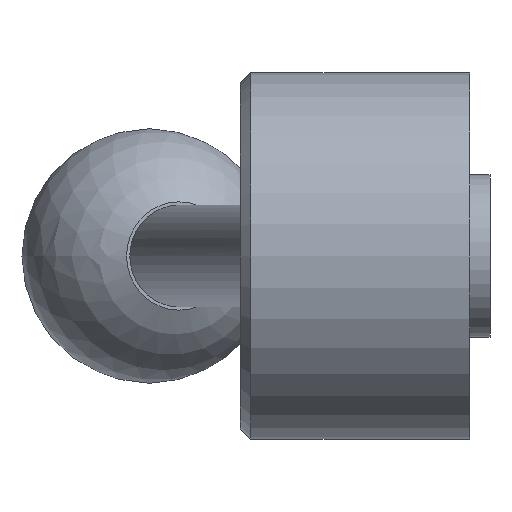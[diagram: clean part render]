
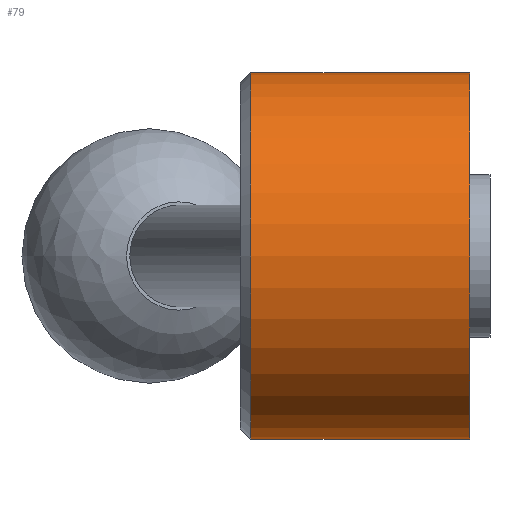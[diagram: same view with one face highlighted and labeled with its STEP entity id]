
A CAD part, left-side view. The second image highlights one B-rep face of the part: STEP entity #79.
In plain terms, the highlighted cylindrical face has radius 18 mm (diameter 36 mm), a full revolution.
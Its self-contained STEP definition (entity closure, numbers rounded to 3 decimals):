
#79 = ADVANCED_FACE( '', ( #103, #104, #105 ), #106, .T. );
#103 = FACE_OUTER_BOUND( '', #148, .T. );
#104 = FACE_BOUND( '', #149, .T. );
#105 = FACE_OUTER_BOUND( '', #150, .T. );
#106 = CYLINDRICAL_SURFACE( '', #151, 18. );
#148 = EDGE_LOOP( '', ( #201 ) );
#149 = EDGE_LOOP( '', ( #202 ) );
#150 = EDGE_LOOP( '', ( #203 ) );
#151 = AXIS2_PLACEMENT_3D( '', #204, #205, #206 );
#201 = ORIENTED_EDGE( '', *, *, #263, .F. );
#202 = ORIENTED_EDGE( '', *, *, #261, .F. );
#203 = ORIENTED_EDGE( '', *, *, #264, .T. );
#204 = CARTESIAN_POINT( '', ( 0., 0., 0. ) );
#205 = DIRECTION( '', ( 0., 1., 0. ) );
#206 = DIRECTION( '', ( 0., 0., -1. ) );
#261 = EDGE_CURVE( '', #280, #280, #281, .T. );
#263 = EDGE_CURVE( '', #284, #284, #285, .T. );
#264 = EDGE_CURVE( '', #286, #286, #287, .T. );
#280 = VERTEX_POINT( '', #308 );
#281 = B_SPLINE_CURVE_WITH_KNOTS( '', 3, ( #309, #310, #311, #312, #313, #314, #315, #316, #317, #318, #319, #320, #321, #322, #323, #324, #325, #326, #327, #328, #329, #330, #331, #332, #333, #334, #335, #336, #337, #338, #339, #340, #341, #342, #343, #344, #345, #346, #347, #348, #349, #350, #351, #352, #353, #354, #355, #356, #357, #358, #359, #360, #361, #362, #363, #364, #365, #366, #367, #368, #369, #370, #371, #372, #373, #374, #375, #376, #377, #378, #379, #380, #381, #382 ), .UNSPECIFIED., .T., .F., ( 2, 2, 2, 2, 2, 2, 2, 2, 2, 2, 2, 2, 2, 2, 2, 2, 2, 2, 2, 2, 2, 2, 2, 2, 2, 2, 2, 2, 2, 2, 2, 2, 2, 2, 2, 2, 2, 2, 2 ), ( -0.001, 0., 0.001, 0.002, 0.003, 0.004, 0.005, 0.006, 0.006, 0.007, 0.008, 0.009, 0.01, 0.011, 0.012, 0.013, 0.014, 0.015, 0.015, 0.016, 0.017, 0.018, 0.019, 0.02, 0.021, 0.022, 0.023, 0.023, 0.024, 0.025, 0.026, 0.027, 0.027, 0.028, 0.028, 0.029, 0.03, 0.031, 0.032 ), .UNSPECIFIED. );
#284 = VERTEX_POINT( '', #385 );
#285 = CIRCLE( '', #386, 18. );
#286 = VERTEX_POINT( '', #387 );
#287 = CIRCLE( '', #388, 18. );
#308 = CARTESIAN_POINT( '', ( 17.292, 15., 5. ) );
#309 = CARTESIAN_POINT( '', ( 17.292, 15.332, 5. ) );
#310 = CARTESIAN_POINT( '', ( 17.292, 14.668, 5. ) );
#311 = CARTESIAN_POINT( '', ( 17.301, 14.342, 4.967 ) );
#312 = CARTESIAN_POINT( '', ( 17.337, 13.701, 4.839 ) );
#313 = CARTESIAN_POINT( '', ( 17.365, 13.382, 4.742 ) );
#314 = CARTESIAN_POINT( '', ( 17.431, 12.778, 4.491 ) );
#315 = CARTESIAN_POINT( '', ( 17.471, 12.491, 4.337 ) );
#316 = CARTESIAN_POINT( '', ( 17.557, 11.949, 3.974 ) );
#317 = CARTESIAN_POINT( '', ( 17.603, 11.693, 3.765 ) );
#318 = CARTESIAN_POINT( '', ( 17.695, 11.235, 3.306 ) );
#319 = CARTESIAN_POINT( '', ( 17.741, 11.028, 3.055 ) );
#320 = CARTESIAN_POINT( '', ( 17.826, 10.663, 2.509 ) );
#321 = CARTESIAN_POINT( '', ( 17.865, 10.508, 2.221 ) );
#322 = CARTESIAN_POINT( '', ( 17.913, 10.321, 1.77 ) );
#323 = CARTESIAN_POINT( '', ( 17.928, 10.266, 1.616 ) );
#324 = CARTESIAN_POINT( '', ( 17.953, 10.17, 1.303 ) );
#325 = CARTESIAN_POINT( '', ( 17.965, 10.129, 1.141 ) );
#326 = CARTESIAN_POINT( '', ( 17.991, 10.032, 0.657 ) );
#327 = CARTESIAN_POINT( '', ( 18., 10., 0.331 ) );
#328 = CARTESIAN_POINT( '', ( 18., 10., -0.325 ) );
#329 = CARTESIAN_POINT( '', ( 17.991, 10.033, -0.658 ) );
#330 = CARTESIAN_POINT( '', ( 17.956, 10.161, -1.301 ) );
#331 = CARTESIAN_POINT( '', ( 17.93, 10.256, -1.613 ) );
#332 = CARTESIAN_POINT( '', ( 17.865, 10.508, -2.221 ) );
#333 = CARTESIAN_POINT( '', ( 17.826, 10.664, -2.511 ) );
#334 = CARTESIAN_POINT( '', ( 17.742, 11.025, -3.051 ) );
#335 = CARTESIAN_POINT( '', ( 17.696, 11.234, -3.305 ) );
#336 = CARTESIAN_POINT( '', ( 17.603, 11.696, -3.767 ) );
#337 = CARTESIAN_POINT( '', ( 17.557, 11.947, -3.973 ) );
#338 = CARTESIAN_POINT( '', ( 17.471, 12.487, -4.335 ) );
#339 = CARTESIAN_POINT( '', ( 17.431, 12.779, -4.492 ) );
#340 = CARTESIAN_POINT( '', ( 17.365, 13.382, -4.742 ) );
#341 = CARTESIAN_POINT( '', ( 17.338, 13.694, -4.838 ) );
#342 = CARTESIAN_POINT( '', ( 17.31, 14.177, -4.935 ) );
#343 = CARTESIAN_POINT( '', ( 17.303, 14.342, -4.959 ) );
#344 = CARTESIAN_POINT( '', ( 17.294, 14.67, -4.992 ) );
#345 = CARTESIAN_POINT( '', ( 17.292, 14.834, -5. ) );
#346 = CARTESIAN_POINT( '', ( 17.292, 15.325, -5. ) );
#347 = CARTESIAN_POINT( '', ( 17.301, 15.652, -4.968 ) );
#348 = CARTESIAN_POINT( '', ( 17.338, 16.302, -4.839 ) );
#349 = CARTESIAN_POINT( '', ( 17.364, 16.615, -4.743 ) );
#350 = CARTESIAN_POINT( '', ( 17.431, 17.217, -4.493 ) );
#351 = CARTESIAN_POINT( '', ( 17.471, 17.51, -4.337 ) );
#352 = CARTESIAN_POINT( '', ( 17.557, 18.052, -3.974 ) );
#353 = CARTESIAN_POINT( '', ( 17.603, 18.302, -3.768 ) );
#354 = CARTESIAN_POINT( '', ( 17.695, 18.764, -3.308 ) );
#355 = CARTESIAN_POINT( '', ( 17.741, 18.973, -3.052 ) );
#356 = CARTESIAN_POINT( '', ( 17.826, 19.335, -2.513 ) );
#357 = CARTESIAN_POINT( '', ( 17.864, 19.489, -2.226 ) );
#358 = CARTESIAN_POINT( '', ( 17.93, 19.743, -1.617 ) );
#359 = CARTESIAN_POINT( '', ( 17.956, 19.838, -1.303 ) );
#360 = CARTESIAN_POINT( '', ( 17.982, 19.934, -0.823 ) );
#361 = CARTESIAN_POINT( '', ( 17.989, 19.959, -0.661 ) );
#362 = CARTESIAN_POINT( '', ( 17.998, 19.992, -0.333 ) );
#363 = CARTESIAN_POINT( '', ( 18., 20., -0.167 ) );
#364 = CARTESIAN_POINT( '', ( 18., 20., 0.328 ) );
#365 = CARTESIAN_POINT( '', ( 17.991, 19.968, 0.653 ) );
#366 = CARTESIAN_POINT( '', ( 17.956, 19.84, 1.297 ) );
#367 = CARTESIAN_POINT( '', ( 17.93, 19.743, 1.616 ) );
#368 = CARTESIAN_POINT( '', ( 17.865, 19.493, 2.219 ) );
#369 = CARTESIAN_POINT( '', ( 17.827, 19.339, 2.506 ) );
#370 = CARTESIAN_POINT( '', ( 17.741, 18.974, 3.052 ) );
#371 = CARTESIAN_POINT( '', ( 17.696, 18.766, 3.304 ) );
#372 = CARTESIAN_POINT( '', ( 17.627, 18.423, 3.649 ) );
#373 = CARTESIAN_POINT( '', ( 17.604, 18.302, 3.758 ) );
#374 = CARTESIAN_POINT( '', ( 17.558, 18.05, 3.965 ) );
#375 = CARTESIAN_POINT( '', ( 17.536, 17.918, 4.064 ) );
#376 = CARTESIAN_POINT( '', ( 17.471, 17.51, 4.336 ) );
#377 = CARTESIAN_POINT( '', ( 17.431, 17.224, 4.49 ) );
#378 = CARTESIAN_POINT( '', ( 17.365, 16.622, 4.741 ) );
#379 = CARTESIAN_POINT( '', ( 17.338, 16.303, 4.838 ) );
#380 = CARTESIAN_POINT( '', ( 17.301, 15.659, 4.967 ) );
#381 = CARTESIAN_POINT( '', ( 17.292, 15.332, 5. ) );
#382 = CARTESIAN_POINT( '', ( 17.292, 14.668, 5. ) );
#385 = CARTESIAN_POINT( '', ( 0., 2., -18. ) );
#386 = AXIS2_PLACEMENT_3D( '', #416, #417, #418 );
#387 = CARTESIAN_POINT( '', ( 0., 23.5, -18. ) );
#388 = AXIS2_PLACEMENT_3D( '', #419, #420, #421 );
#416 = CARTESIAN_POINT( '', ( 0., 2., 0. ) );
#417 = DIRECTION( '', ( 0., -1., 0. ) );
#418 = DIRECTION( '', ( 0., 0., -1. ) );
#419 = CARTESIAN_POINT( '', ( 0., 23.5, 0. ) );
#420 = DIRECTION( '', ( 0., -1., 0. ) );
#421 = DIRECTION( '', ( 0., 0., -1. ) );
